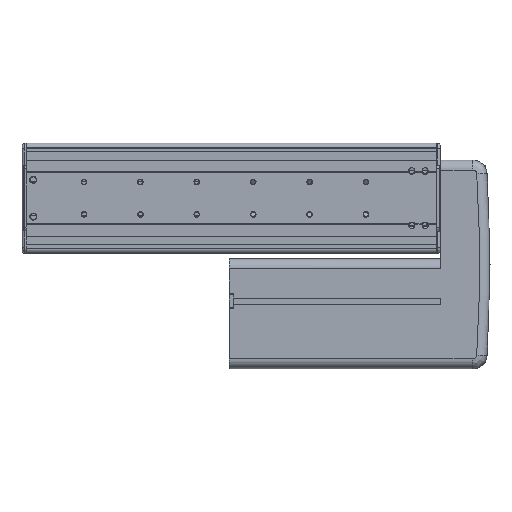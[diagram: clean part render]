
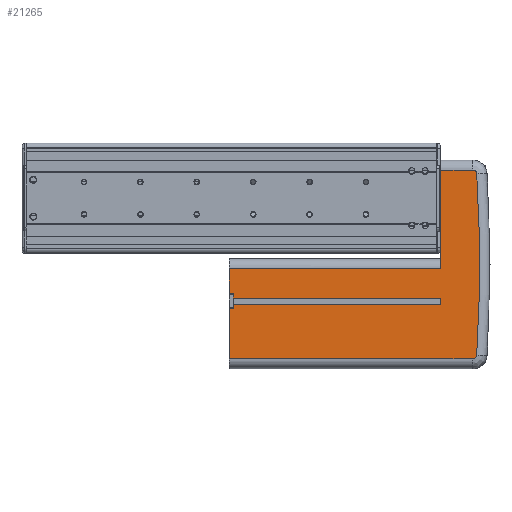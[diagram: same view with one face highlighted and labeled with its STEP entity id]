
A CAD part, front view. The second image highlights one B-rep face of the part: STEP entity #21265.
In plain terms, the highlighted planar face has unit normal (0, -1, 0).
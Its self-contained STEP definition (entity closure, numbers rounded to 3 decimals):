
#982=DIRECTION('',(-1.,0.,0.));
#983=VECTOR('',#982,147.);
#984=CARTESIAN_POINT('',(294.,5.,-75.1));
#985=LINE('',#984,#983);
#994=DIRECTION('',(0.,0.,1.));
#995=VECTOR('',#994,4.2);
#996=CARTESIAN_POINT('',(294.,5.,-75.1));
#997=LINE('',#996,#995);
#998=DIRECTION('',(0.,0.,-1.));
#999=VECTOR('',#998,3.4);
#1000=CARTESIAN_POINT('',(147.,5.,-67.5));
#1001=LINE('',#1000,#999);
#1002=DIRECTION('',(0.,0.,-1.));
#1003=VECTOR('',#1002,17.5);
#1004=CARTESIAN_POINT('',(144.,5.,-50.));
#1005=LINE('',#1004,#1003);
#1006=DIRECTION('',(1.,0.,0.));
#1007=VECTOR('',#1006,150.);
#1008=CARTESIAN_POINT('',(144.,5.,-50.));
#1009=LINE('',#1008,#1007);
#1010=DIRECTION('',(0.,0.,1.));
#1011=VECTOR('',#1010,70.);
#1012=CARTESIAN_POINT('',(294.,5.,-50.));
#1013=LINE('',#1012,#1011);
#1014=CARTESIAN_POINT('',(316.587,5.,16.999));
#1015=DIRECTION('',(0.,1.,0.));
#1016=DIRECTION('',(0.,0.,1.));
#1017=AXIS2_PLACEMENT_3D('',#1014,#1015,#1016);
#1019=CARTESIAN_POINT('',(-671.,5.,-47.));
#1020=DIRECTION('',(0.,1.,0.));
#1021=DIRECTION('',(0.998,0.,0.065));
#1022=AXIS2_PLACEMENT_3D('',#1019,#1020,#1021);
#1024=CARTESIAN_POINT('',(316.587,5.,-110.999));
#1025=DIRECTION('',(0.,1.,0.));
#1026=DIRECTION('',(0.998,0.,-0.065));
#1027=AXIS2_PLACEMENT_3D('',#1024,#1025,#1026);
#1029=DIRECTION('',(0.,0.,-1.));
#1030=VECTOR('',#1029,35.5);
#1031=CARTESIAN_POINT('',(144.,5.,-78.5));
#1032=LINE('',#1031,#1030);
#1033=DIRECTION('',(0.,0.,-1.));
#1034=VECTOR('',#1033,3.4);
#1035=CARTESIAN_POINT('',(147.,5.,-75.1));
#1036=LINE('',#1035,#1034);
#1053=DIRECTION('',(1.,0.,0.));
#1054=VECTOR('',#1053,147.);
#1055=CARTESIAN_POINT('',(147.,5.,-70.9));
#1056=LINE('',#1055,#1054);
#13500=DIRECTION('',(1.,0.,0.));
#13501=VECTOR('',#13500,150.);
#13502=CARTESIAN_POINT('',(144.,5.,-114.));
#13503=LINE('',#13502,#13501);
#13504=DIRECTION('',(1.,0.,0.));
#13505=VECTOR('',#13504,22.587);
#13506=CARTESIAN_POINT('',(294.,5.,-114.));
#13507=LINE('',#13506,#13505);
#13933=DIRECTION('',(-1.,0.,0.));
#13934=VECTOR('',#13933,22.587);
#13935=CARTESIAN_POINT('',(316.587,5.,20.));
#13936=LINE('',#13935,#13934);
#14593=DIRECTION('',(1.,0.,0.));
#14594=VECTOR('',#14593,3.);
#14595=CARTESIAN_POINT('',(144.,5.,-67.5));
#14596=LINE('',#14595,#14594);
#14617=DIRECTION('',(-1.,0.,0.));
#14618=VECTOR('',#14617,3.);
#14619=CARTESIAN_POINT('',(147.,5.,-78.5));
#14620=LINE('',#14619,#14618);
#15869=CARTESIAN_POINT('',(144.,5.,-114.));
#15870=VERTEX_POINT('',#15869);
#15871=CARTESIAN_POINT('',(144.,5.,-78.5));
#15872=VERTEX_POINT('',#15871);
#15881=CARTESIAN_POINT('',(144.,5.,-67.5));
#15882=VERTEX_POINT('',#15881);
#15883=CARTESIAN_POINT('',(144.,5.,-50.));
#15884=VERTEX_POINT('',#15883);
#16030=CARTESIAN_POINT('',(294.,5.,20.));
#16032=VERTEX_POINT('',#16030);
#16045=CARTESIAN_POINT('',(316.587,5.,
-114.));
#16046=VERTEX_POINT('',#16045);
#16047=CARTESIAN_POINT('',(319.582,5.,
-111.194));
#16048=VERTEX_POINT('',#16047);
#16049=CARTESIAN_POINT('',(319.582,5.,17.194));
#16050=VERTEX_POINT('',#16049);
#16051=CARTESIAN_POINT('',(316.587,5.,20.));
#16052=VERTEX_POINT('',#16051);
#16098=CARTESIAN_POINT('',(147.,5.,-75.1));
#16100=VERTEX_POINT('',#16098);
#16112=CARTESIAN_POINT('',(147.,5.,-70.9));
#16113=VERTEX_POINT('',#16112);
#19426=CARTESIAN_POINT('',(147.,5.,-67.5));
#19428=VERTEX_POINT('',#19426);
#19436=CARTESIAN_POINT('',(147.,5.,-78.5));
#19437=VERTEX_POINT('',#19436);
#19600=CARTESIAN_POINT('',(294.,5.,-75.1));
#19601=VERTEX_POINT('',#19600);
#19602=CARTESIAN_POINT('',(294.,5.,-70.9));
#19603=VERTEX_POINT('',#19602);
#19604=CARTESIAN_POINT('',(294.,5.,-50.));
#19605=VERTEX_POINT('',#19604);
#19612=CARTESIAN_POINT('',(294.,5.,-114.));
#19613=VERTEX_POINT('',#19612);
#21231=CARTESIAN_POINT('',(220.5,5.,-94.55));
#21232=DIRECTION('',(0.,1.,0.));
#21233=DIRECTION('',(0.,0.,-1.));
#21234=AXIS2_PLACEMENT_3D('',#21231,#21232,#21233);
#21235=PLANE('',#21234);
#21236=ORIENTED_EDGE('',*,*,#20903,.T.);
#21238=ORIENTED_EDGE('',*,*,#21237,.F.);
#21239=ORIENTED_EDGE('',*,*,#20764,.F.);
#21241=ORIENTED_EDGE('',*,*,#21240,.F.);
#21242=ORIENTED_EDGE('',*,*,#20517,.F.);
#21244=ORIENTED_EDGE('',*,*,#21243,.T.);
#21245=ORIENTED_EDGE('',*,*,#21122,.T.);
#21247=ORIENTED_EDGE('',*,*,#21246,.F.);
#21249=ORIENTED_EDGE('',*,*,#21248,.T.);
#21251=ORIENTED_EDGE('',*,*,#21250,.T.);
#21253=ORIENTED_EDGE('',*,*,#21252,.T.);
#21255=ORIENTED_EDGE('',*,*,#21254,.F.);
#21257=ORIENTED_EDGE('',*,*,#21256,.F.);
#21258=ORIENTED_EDGE('',*,*,#20529,.F.);
#21260=ORIENTED_EDGE('',*,*,#21259,.F.);
#21261=ORIENTED_EDGE('',*,*,#20780,.F.);
#21262=ORIENTED_EDGE('',*,*,#21221,.F.);
#21263=EDGE_LOOP('',(#21236,#21238,#21239,#21241,#21242,#21244,#21245,#21247,
#21249,#21251,#21253,#21255,#21257,#21258,#21260,#21261,#21262));
#21264=FACE_OUTER_BOUND('',#21263,.F.);
#21265=ADVANCED_FACE('',(#21264),#21235,.F.);
#1018=CIRCLE('',#1017,3.001);
#1023=CIRCLE('',#1022,992.66);
#1028=CIRCLE('',#1027,3.001);
#20517=EDGE_CURVE('',#15884,#15882,#1005,.T.);
#20529=EDGE_CURVE('',#15872,#15870,#1032,.T.);
#20764=EDGE_CURVE('',#19428,#16113,#1001,.T.);
#20780=EDGE_CURVE('',#16100,#19437,#1036,.T.);
#20903=EDGE_CURVE('',#19601,#19603,#997,.T.);
#21122=EDGE_CURVE('',#19605,#16032,#1013,.T.);
#21221=EDGE_CURVE('',#19601,#16100,#985,.T.);
#21237=EDGE_CURVE('',#16113,#19603,#1056,.T.);
#21240=EDGE_CURVE('',#15882,#19428,#14596,.T.);
#21243=EDGE_CURVE('',#15884,#19605,#1009,.T.);
#21246=EDGE_CURVE('',#16052,#16032,#13936,.T.);
#21248=EDGE_CURVE('',#16052,#16050,#1018,.T.);
#21250=EDGE_CURVE('',#16050,#16048,#1023,.T.);
#21252=EDGE_CURVE('',#16048,#16046,#1028,.T.);
#21254=EDGE_CURVE('',#19613,#16046,#13507,.T.);
#21256=EDGE_CURVE('',#15870,#19613,#13503,.T.);
#21259=EDGE_CURVE('',#19437,#15872,#14620,.T.);
